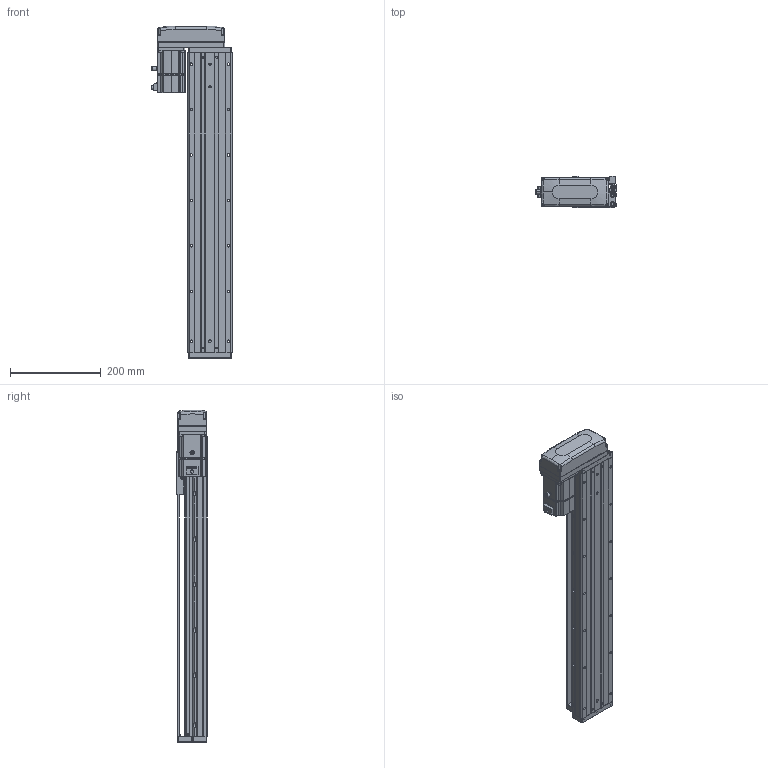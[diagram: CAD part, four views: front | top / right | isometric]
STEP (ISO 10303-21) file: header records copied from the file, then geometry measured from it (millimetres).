
FILE_DESCRIPTION (( 'STEP AP203' ), '1' );
FILE_NAME ('KTHA100-500-BR-M20-C4L.step', '2022-04-26T02:00:10', ( '微软用户' ), ( '微软中国' ), 'SwSTEP 2.0', 'SolidWorks 2020', '' );
FILE_SCHEMA (( 'CONFIG_CONTROL_DESIGN' ));
Length unit declared in the file: millimetre
Products named in the file (17): KTHA100-002; GBT77-2000 M3×3; CTHA86-033; KTHA100-004; GBT 70.1-M3℅6; KTHA100-005; GBT70.1 M5℅16; KTHA100-500-BR-M20-C4L; GB¨uT 70.2-M3¡Á5_M3¡Á6; CTHA60-016; EE_SX911P_R; GBT 70.3-M3℅6; CTHA60-017; _X2_4E0983F1_X0_200W_1; KTHA100-001_660; CTHA60-021; CTHA86-015-1_CTHA86-015-2
Assembly tree (57 placements, depth 2):
  KTHA100-500-BR-M20-C4L
    KTHA100-001_660
    KTHA100-002
    KTHA100-004
    KTHA100-005
    GB¨uT 70.2-M3¡Á5_M3¡Á6  x6
    EE_SX911P_R  x3
    CTHA60-017  x3
    CTHA60-021  x2
    GBT77-2000 M3×3  x6
    GBT 70.1-M3℅6  x10
    GBT70.1 M5℅16  x14
    CTHA60-016  x2
    GBT 70.3-M3℅6  x4
    _X2_4E0983F1_X0_200W_1
    CTHA86-015-1_CTHA86-015-2
    CTHA86-033
Bounding box: 178.52 x 68 x 731 mm (x, y, z)
Volume: 3337848.4 mm3; surface area: 547444.6 mm2
Topology: 60 solids, 60 shells, 2417 faces, 5777 edges, 3580 vertices
Faces by surface type: plane 1232, cylinder 671, cone 307, torus 116, bspline 75, sphere 16
Entity records: 41302 total; most frequent: CARTESIAN_POINT 8336, DIRECTION 6382, ORIENTED_EDGE 6166, EDGE_CURVE 3083, AXIS2_PLACEMENT_3D 2234, VERTEX_POINT 1940, LINE 1914, VECTOR 1914
